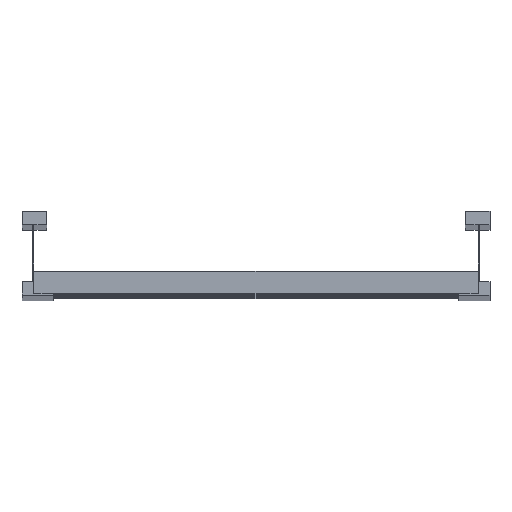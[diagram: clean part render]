
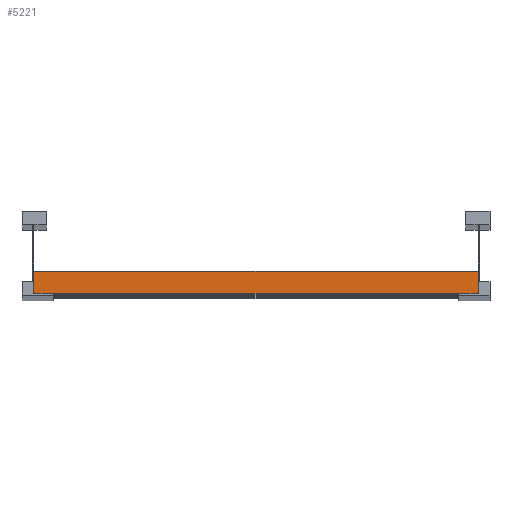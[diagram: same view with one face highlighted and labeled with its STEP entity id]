
A CAD part, top view. The second image highlights one B-rep face of the part: STEP entity #5221.
In plain terms, the highlighted planar face has unit normal (0, 0, 1).
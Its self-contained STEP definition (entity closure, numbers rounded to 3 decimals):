
#128 = VECTOR ( 'NONE', #2967, 1000. ) ;
#195 = VERTEX_POINT ( 'NONE', #1540 ) ;
#460 = AXIS2_PLACEMENT_3D ( 'NONE', #5317, #5259, #6174 ) ;
#483 = EDGE_CURVE ( 'NONE', #2169, #4125, #4815, .T. ) ;
#620 = ORIENTED_EDGE ( 'NONE', *, *, #5095, .T. ) ;
#647 = CARTESIAN_POINT ( 'NONE',  ( 198.5, 0., 20.25 ) ) ;
#1364 = ORIENTED_EDGE ( 'NONE', *, *, #3041, .T. ) ;
#1540 = CARTESIAN_POINT ( 'NONE',  ( -198.5, 20., 20.25 ) ) ;
#1592 = CARTESIAN_POINT ( 'NONE',  ( -198.5, 0., 20.25 ) ) ;
#1915 = EDGE_CURVE ( 'NONE', #3588, #2169, #5609, .T. ) ;
#2055 = VECTOR ( 'NONE', #3852, 1000. ) ;
#2169 = VERTEX_POINT ( 'NONE', #647 ) ;
#2380 = FACE_OUTER_BOUND ( 'NONE', #5829, .T. ) ;
#2774 = VECTOR ( 'NONE', #5998, 1000. ) ;
#2967 = DIRECTION ( 'NONE',  ( -1., 0., 0. ) ) ;
#3041 = EDGE_CURVE ( 'NONE', #195, #4125, #4821, .T. ) ;
#3217 = ORIENTED_EDGE ( 'NONE', *, *, #483, .F. ) ;
#3347 = PLANE ( 'NONE',  #460 ) ;
#3411 = CARTESIAN_POINT ( 'NONE',  ( -198.5, 20., 20.25 ) ) ;
#3505 = CARTESIAN_POINT ( 'NONE',  ( 198.5, 20., 20.25 ) ) ;
#3588 = VERTEX_POINT ( 'NONE', #3505 ) ;
#3852 = DIRECTION ( 'NONE',  ( 0., -1., 0. ) ) ;
#3940 = CARTESIAN_POINT ( 'NONE',  ( 198.5, 0., 20.25 ) ) ;
#4125 = VERTEX_POINT ( 'NONE', #1592 ) ;
#4238 = CARTESIAN_POINT ( 'NONE',  ( 198.5, 20., 20.25 ) ) ;
#4815 = LINE ( 'NONE', #3940, #128 ) ;
#4821 = LINE ( 'NONE', #3411, #2055 ) ;
#5080 = ORIENTED_EDGE ( 'NONE', *, *, #1915, .F. ) ;
#5081 = VECTOR ( 'NONE', #6141, 1000. ) ;
#5095 = EDGE_CURVE ( 'NONE', #3588, #195, #6023, .T. ) ;
#5221 = ADVANCED_FACE ( 'NONE', ( #2380 ), #3347, .F. ) ;
#5259 = DIRECTION ( 'NONE',  ( 0., 0., -1. ) ) ;
#5317 = CARTESIAN_POINT ( 'NONE',  ( 198.5, 20., 20.25 ) ) ;
#5609 = LINE ( 'NONE', #6055, #2774 ) ;
#5829 = EDGE_LOOP ( 'NONE', ( #1364, #3217, #5080, #620 ) ) ;
#5998 = DIRECTION ( 'NONE',  ( 0., -1., 0. ) ) ;
#6023 = LINE ( 'NONE', #4238, #5081 ) ;
#6055 = CARTESIAN_POINT ( 'NONE',  ( 198.5, 20., 20.25 ) ) ;
#6141 = DIRECTION ( 'NONE',  ( -1., 0., 0. ) ) ;
#6174 = DIRECTION ( 'NONE',  ( 0., 1., 0. ) ) ;
